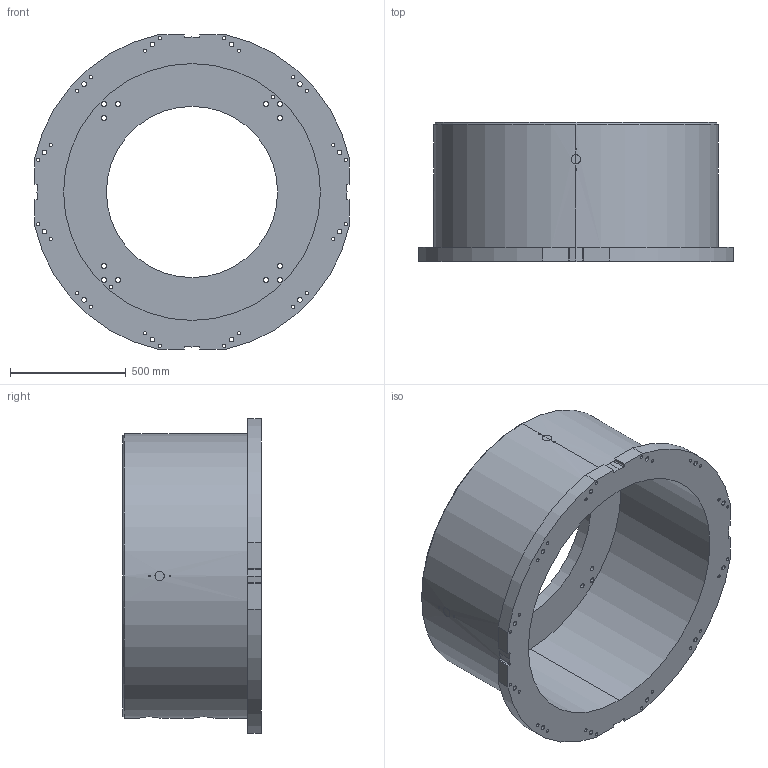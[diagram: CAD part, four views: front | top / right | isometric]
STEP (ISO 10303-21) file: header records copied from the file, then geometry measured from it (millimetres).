
FILE_DESCRIPTION (( 'STEP AP214' ), '1' );
FILE_NAME ('T-600.STEP', '2024-01-24T12:24:06', ( '' ), ( '' ), 'SwSTEP 2.0', 'SolidWorks 2022', '' );
FILE_SCHEMA (( 'AUTOMOTIVE_DESIGN' ));
Length unit declared in the file: millimetre
Products named in the file (1): T-600
Bounding box: 1360 x 600 x 1360 mm (x, y, z)
Volume: 180435024.8 mm3; surface area: 6644439.3 mm2
Topology: 1 solids, 1 shells, 231 faces, 649 edges, 432 vertices
Faces by surface type: cylinder 177, plane 28, bspline 24, cone 2
Entity records: 13475 total; most frequent: CARTESIAN_POINT 6256, ORIENTED_EDGE 1298, DIRECTION 1165, EDGE_CURVE 649, AXIS2_PLACEMENT_3D 462, VERTEX_POINT 432, EDGE_LOOP 345, CIRCLE 254
